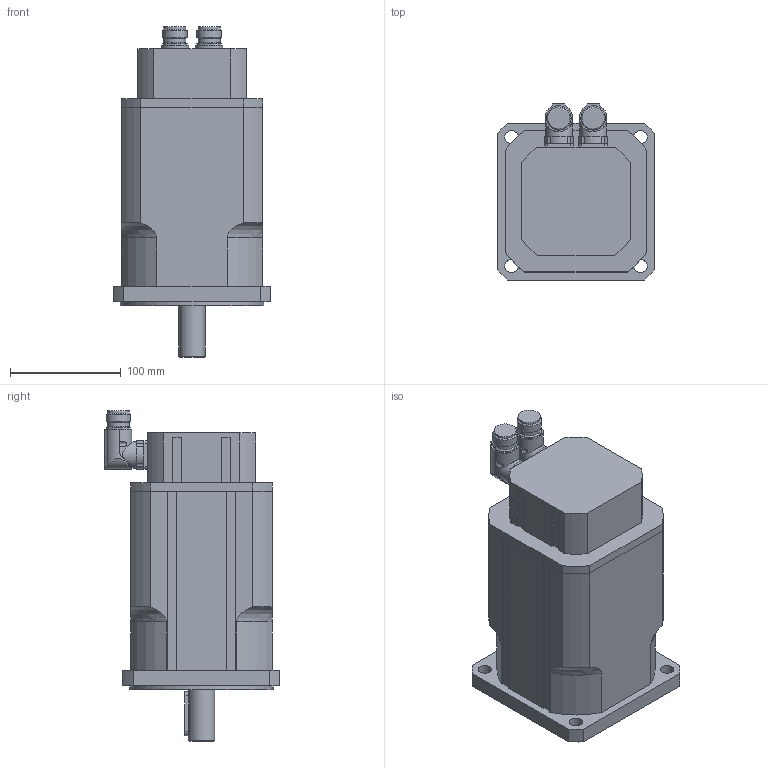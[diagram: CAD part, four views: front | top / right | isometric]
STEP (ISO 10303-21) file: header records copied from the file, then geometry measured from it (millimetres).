
FILE_DESCRIPTION(/* description */ ('Alibre Inc.'),/* implementation_level */ '2;1');
FILE_NAME(/* name */ 'export2',/* time_stamp */ '2013-07-29T09:01:58+02:00',/* author */ (''),/* organization */ (''),/* preprocessor_version */ 'ST-DEVELOPER v12',/* originating_system */ 'Alibre',/* authorisation */ '');
FILE_SCHEMA (('CONFIG_CONTROL_DESIGN'));
Length unit declared in the file: millimetre
Products named in the file (6): ID_1
Bounding box: 142 x 159 x 299 mm (x, y, z)
Volume: 3394751.1 mm3; surface area: 225257.6 mm2
Topology: 6 solids, 6 shells, 224 faces, 576 edges, 377 vertices
Faces by surface type: plane 117, cylinder 91, cone 10, torus 4, bspline 2
Full cylindrical faces by diameter (mm): 2.7 x8, 6.647 x1, 12 x4, 20 x8, 22 x4, 24 x3, 130 x1
Entity records: 6145 total; most frequent: CARTESIAN_POINT 1570, ORIENTED_EDGE 794, DIRECTION 773, EDGE_CURVE 397, AXIS2_PLACEMENT_3D 319, VERTEX_POINT 277, VECTOR 227, LINE 227
